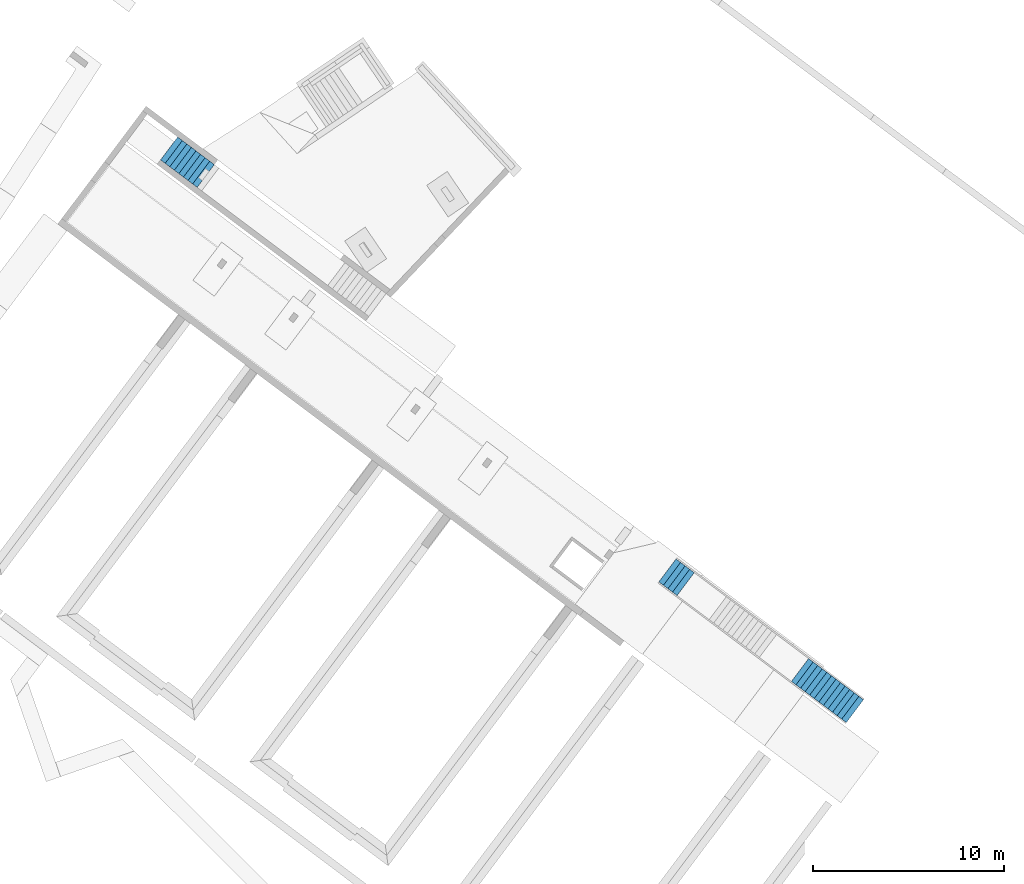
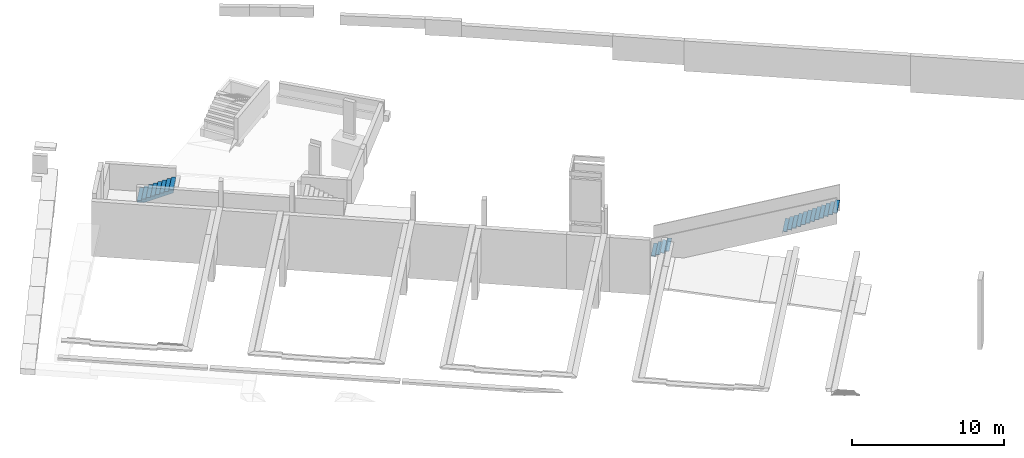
# One storey, part 6 of 11: 3 stair flights, 2 elements without a shape of their own.
"""IFC2X3 building model written with IfcOpenShell, lengths in metres."""

from ifc_helpers import new_model, entity, si_unit, converted_unit, derived_unit, direction, frame, origin, place, context, subcontext, project, spatial, faceted_brep, material, material_list, type_object, element, aggregate, save


model = new_model("IFC2X3")

# Units and contexts
model_context = context("Model", 3, precision=1e-05, world=origin(), true_north=direction((6.123031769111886e-17, 1.0)))
body_context = subcontext(model_context, "Body", "Model", "MODEL_VIEW")
ifc_project = project(units=[si_unit("LENGTHUNIT", "METRE"), si_unit("AREAUNIT", "SQUARE_METRE"), si_unit("VOLUMEUNIT", "CUBIC_METRE"), converted_unit("PLANEANGLEUNIT", "DEGREE", entity("IfcRatioMeasure", 0.017453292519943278), si_unit("PLANEANGLEUNIT", "RADIAN"), dimensions=[0, 0, 0, 0, 0, 0, 0]), si_unit("MASSUNIT", "GRAM", prefix="KILO"), derived_unit("MASSDENSITYUNIT", [(si_unit("MASSUNIT", "GRAM", prefix="KILO"), 1), (si_unit("LENGTHUNIT", "METRE"), -3)]), derived_unit("IONCONCENTRATIONUNIT", [(si_unit("MASSUNIT", "GRAM", prefix="KILO"), 1), (si_unit("LENGTHUNIT", "METRE"), -3)]), derived_unit("MOMENTOFINERTIAUNIT", [(si_unit("LENGTHUNIT", "METRE"), 4)]), si_unit("TIMEUNIT", "SECOND"), si_unit("FREQUENCYUNIT", "HERTZ"), si_unit("THERMODYNAMICTEMPERATUREUNIT", "DEGREE_CELSIUS"), derived_unit("THERMALTRANSMITTANCEUNIT", [(si_unit("MASSUNIT", "GRAM", prefix="KILO"), 1), (si_unit("THERMODYNAMICTEMPERATUREUNIT", "KELVIN"), -1), (si_unit("TIMEUNIT", "SECOND"), -3)]), derived_unit("THERMALCONDUCTANCEUNIT", [(si_unit("MASSUNIT", "GRAM", prefix="KILO"), 1), (si_unit("THERMODYNAMICTEMPERATUREUNIT", "KELVIN"), -1), (si_unit("TIMEUNIT", "SECOND"), -3), (si_unit("LENGTHUNIT", "METRE"), 1)]), derived_unit("VOLUMETRICFLOWRATEUNIT", [(si_unit("LENGTHUNIT", "METRE"), 3), (si_unit("TIMEUNIT", "SECOND"), -1)]), derived_unit("MASSFLOWRATEUNIT", [(si_unit("MASSUNIT", "GRAM", prefix="KILO"), 1), (si_unit("TIMEUNIT", "SECOND"), -1)]), derived_unit("ROTATIONALFREQUENCYUNIT", [(si_unit("TIMEUNIT", "SECOND"), -1)]), si_unit("ELECTRICCURRENTUNIT", "AMPERE"), si_unit("ELECTRICVOLTAGEUNIT", "VOLT"), si_unit("POWERUNIT", "WATT"), si_unit("FORCEUNIT", "NEWTON", prefix="KILO"), si_unit("ILLUMINANCEUNIT", "LUX"), si_unit("LUMINOUSFLUXUNIT", "LUMEN"), si_unit("LUMINOUSINTENSITYUNIT", "CANDELA"), derived_unit("USERDEFINED", [(si_unit("MASSUNIT", "GRAM", prefix="KILO"), -1), (si_unit("LENGTHUNIT", "METRE"), -2), (si_unit("TIMEUNIT", "SECOND"), 3), (si_unit("LUMINOUSFLUXUNIT", "LUMEN"), 1)]), derived_unit("USERDEFINED", [(si_unit("MASSUNIT", "GRAM", prefix="KILO"), 1), (si_unit("TIMEUNIT", "SECOND"), -3), (si_unit("LENGTHUNIT", "METRE"), 3), (si_unit("ELECTRICCURRENTUNIT", "AMPERE"), -2)]), derived_unit("SOUNDPOWERUNIT", [(si_unit("MASSUNIT", "GRAM", prefix="KILO"), 1), (si_unit("TIMEUNIT", "SECOND"), -3), (si_unit("LENGTHUNIT", "METRE"), 2)]), derived_unit("SOUNDPRESSUREUNIT", [(si_unit("MASSUNIT", "GRAM", prefix="KILO"), 1), (si_unit("LENGTHUNIT", "METRE"), -1), (si_unit("TIMEUNIT", "SECOND"), -2)]), derived_unit("LINEARVELOCITYUNIT", [(si_unit("LENGTHUNIT", "METRE"), 1), (si_unit("TIMEUNIT", "SECOND"), -1)]), si_unit("PRESSUREUNIT", "PASCAL"), derived_unit("USERDEFINED", [(si_unit("MASSUNIT", "GRAM", prefix="KILO"), 1), (si_unit("LENGTHUNIT", "METRE"), -2), (si_unit("TIMEUNIT", "SECOND"), -2)]), derived_unit("LINEARFORCEUNIT", [(si_unit("MASSUNIT", "GRAM", prefix="KILO"), 1), (si_unit("TIMEUNIT", "SECOND"), -2)]), derived_unit("PLANARFORCEUNIT", [(si_unit("MASSUNIT", "GRAM", prefix="KILO"), 1), (si_unit("LENGTHUNIT", "METRE"), -1), (si_unit("TIMEUNIT", "SECOND"), -2)]), derived_unit("SPECIFICHEATCAPACITYUNIT", [(si_unit("THERMODYNAMICTEMPERATUREUNIT", "KELVIN"), -1), (si_unit("LENGTHUNIT", "METRE"), 2), (si_unit("TIMEUNIT", "SECOND"), -2)]), derived_unit("HEATINGVALUEUNIT", [(si_unit("LENGTHUNIT", "METRE"), 2), (si_unit("TIMEUNIT", "SECOND"), -2)]), derived_unit("VAPORPERMEABILITYUNIT", [(si_unit("LENGTHUNIT", "METRE"), -1), (si_unit("TIMEUNIT", "SECOND"), 1)]), derived_unit("DYNAMICVISCOSITYUNIT", [(si_unit("MASSUNIT", "GRAM", prefix="KILO"), 1), (si_unit("TIMEUNIT", "SECOND"), -1), (si_unit("LENGTHUNIT", "METRE"), -1)]), derived_unit("THERMALEXPANSIONCOEFFICIENTUNIT", [(si_unit("THERMODYNAMICTEMPERATUREUNIT", "KELVIN"), -1)]), derived_unit("MODULUSOFELASTICITYUNIT", [(si_unit("MASSUNIT", "GRAM", prefix="KILO"), 1), (si_unit("LENGTHUNIT", "METRE"), -1), (si_unit("TIMEUNIT", "SECOND"), -2)]), derived_unit("ISOTHERMALMOISTURECAPACITYUNIT", [(si_unit("LENGTHUNIT", "METRE"), 3), (si_unit("MASSUNIT", "GRAM", prefix="KILO"), -1)]), derived_unit("MOISTUREDIFFUSIVITYUNIT", [(si_unit("TIMEUNIT", "SECOND"), -1), (si_unit("LENGTHUNIT", "METRE"), 2)])], contexts=[model_context])

# Site, building, storey
site_placement = place(None, origin())
site = spatial("IfcSite", under=ifc_project, at=site_placement, Name="Default", CompositionType="ELEMENT")
building_placement = place(site_placement, frame((0.0, 0.0, 235.0), z_axis=(0.0, 0.0, 1.0), x_axis=(-0.7996477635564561, 0.6004693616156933, 0.0)))
building = spatial("IfcBuilding", under=site, at=building_placement, CompositionType="ELEMENT")
storey_placement = place(building_placement, frame((0.0, 0.0, -4.459999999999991)))
storey = spatial("IfcBuildingStorey", under=building, at=storey_placement, Name="PS1- Vestuari", CompositionType="ELEMENT", Elevation=-4.459999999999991)

# Stair, stair flight
stair_1_placement = place(storey_placement, origin())
stair_1 = element("IfcStair", 1, at=stair_1_placement, inside=storey, Name="Escalera moldeada in situ:Escalera", ShapeType="STRAIGHT_RUN_STAIR")
ifc_material_1 = material(Name="_Formigó- T1- STR")
stair_flight_type_1 = type_object("IfcStairFlightType", Name="Tramo monolítico:E00- STR- Ext", PredefinedType="STRAIGHT")
stair_flight_1_placement = place(stair_1_placement, frame((70.04514768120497, -43.84019175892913, 0.0)))
stair_flight_1 = element("IfcStairFlight", 2, at=stair_flight_1_placement, type_object=stair_flight_type_1, material=ifc_material_1, Name="Escalera moldeada in situ:Escalera:42290 Run 1", ObjectType="Tramo monolítico:E00- STR- Ext", NumberOfRiser=9, NumberOfTreads=8, RiserHeight=0.4775444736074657, TreadLength=0.9842519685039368, context=body_context, shape_type="Brep", body=[
    faceted_brep([(2.099999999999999, 0.0, 0.09555555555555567), (2.4000000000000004, 0.0, 0.09555555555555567), (2.4000000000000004, 1.499999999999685, 0.09555555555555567), (2.099999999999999, 1.499999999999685, 0.09555555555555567), (2.4000000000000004, 1.499999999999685, -0.05), (2.099999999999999, 1.499999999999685, -0.05), (2.4000000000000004, 0.0, -0.05), (2.099999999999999, 0.0, -0.05), (1.799999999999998, 0.0, 0.24111111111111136), (2.099999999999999, 0.0, 0.24111111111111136), (2.099999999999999, 1.499999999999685, 0.24111111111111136), (1.799999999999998, 1.499999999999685, 0.24111111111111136), (1.9418295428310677, 1.499999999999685, -0.0499999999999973), (1.799999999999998, 1.499999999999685, 0.018813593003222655), (1.799999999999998, 0.0, 0.018813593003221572), (1.9418295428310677, 0.0, -0.05), (1.499999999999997, 0.0, 0.16436914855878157), (1.2000000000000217, 0.0, 0.30992470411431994), (0.9000000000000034, 0.0, 0.45548025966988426), (0.6000000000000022, 0.0, 0.6010358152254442), (0.3000000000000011, 0.0, 0.7465913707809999), (0.0, 0.0, 0.8921469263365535), (0.0, 1.4999999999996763, 0.8921469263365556), (0.3000000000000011, 1.4999999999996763, 0.7465913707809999), (0.6000000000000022, 1.4999999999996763, 0.6010358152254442), (0.9000000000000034, 1.4999999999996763, 0.45548025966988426), (1.2000000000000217, 1.499999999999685, 0.30992470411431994), (1.499999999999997, 1.499999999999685, 0.16436914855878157), (1.499999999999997, 0.0, 0.3866666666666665), (1.799999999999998, 0.0, 0.3866666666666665), (1.799999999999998, 1.499999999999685, 0.3866666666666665), (1.5000000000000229, 1.499999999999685, 0.3866666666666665), (1.2000000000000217, 0.0, 0.5322222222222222), (1.5000000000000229, 0.0, 0.5322222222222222), (1.5000000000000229, 1.499999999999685, 0.5322222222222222), (1.2000000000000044, 1.499999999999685, 0.5322222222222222), (0.9000000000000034, 0.0, 0.6777777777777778), (1.2000000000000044, 0.0, 0.6777777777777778), (1.2000000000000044, 1.4999999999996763, 0.6777777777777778), (0.9000000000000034, 1.4999999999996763, 0.6777777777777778), (0.6000000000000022, 0.0, 0.8233333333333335), (0.9000000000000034, 0.0, 0.8233333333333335), (0.9000000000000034, 1.4999999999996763, 0.8233333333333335), (0.6000000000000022, 1.4999999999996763, 0.8233333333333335), (0.3000000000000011, 0.0, 0.9688888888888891), (0.6000000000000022, 0.0, 0.9688888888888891), (0.6000000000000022, 1.4999999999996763, 0.9688888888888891), (0.3000000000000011, 1.4999999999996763, 0.9688888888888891), (0.0, 0.0, 1.1144444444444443), (0.3000000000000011, 0.0, 1.1144444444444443), (0.3000000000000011, 1.4999999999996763, 1.1144444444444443), (0.0, 1.4999999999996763, 1.1144444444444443)], [[[0, 1, 2, 3]], [[3, 2, 4, 5]], [[2, 1, 6, 4]], [[1, 0, 7, 6]], [[8, 9, 10, 11]], [[3, 5, 12, 13, 11, 10]], [[0, 3, 10, 9]], [[7, 0, 9, 8, 14, 15]], [[6, 7, 15, 12, 5, 4]], [[12, 15, 14, 16, 17, 18, 19, 20, 21, 22, 23, 24, 25, 26, 27, 13]], [[28, 29, 30, 31]], [[31, 30, 11, 13, 27]], [[8, 11, 30, 29]], [[29, 28, 16, 14, 8]], [[32, 33, 34, 35]], [[35, 34, 31, 27, 26]], [[28, 31, 34, 33]], [[33, 32, 17, 16, 28]], [[36, 37, 38, 39]], [[39, 38, 35, 26, 25]], [[32, 35, 38, 37]], [[37, 36, 18, 17, 32]], [[40, 41, 42, 43]], [[43, 42, 39, 25, 24]], [[36, 39, 42, 41]], [[41, 40, 19, 18, 36]], [[44, 45, 46, 47]], [[47, 46, 43, 24, 23]], [[40, 43, 46, 45]], [[45, 44, 20, 19, 40]], [[48, 49, 50, 51]], [[51, 50, 47, 23, 22]], [[44, 47, 50, 49]], [[49, 48, 21, 20, 44]], [[48, 51, 22, 21]]]),
])
aggregate(stair_1, [stair_flight_1])

# Stair, stair flights
stair_2_placement = place(storey_placement, origin())
stair_2 = element("IfcStair", 3, at=stair_2_placement, inside=storey, Name="Escalera moldeada in situ:Escalera", ObjectType="Escalera moldeada in situ:E-A1", ShapeType="NOTDEFINED")
ifc_material_2 = material(Name="_PAV escales STR")
ifc_material_3 = material(Name="_Acer- STR")
ifc_material_list = material_list([ifc_material_2, ifc_material_3])
stair_flight_type_2 = type_object("IfcStairFlightType", Name="Tramo monolítico:E00- STR- Acer", PredefinedType="STRAIGHT")
stair_flight_2_placement = place(stair_2_placement, frame((37.045147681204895, -41.8371917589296, 0.0)))
stair_flight_2 = element("IfcStairFlight", 4, at=stair_flight_2_placement, type_object=stair_flight_type_2, material=ifc_material_list, Name="Escalera moldeada in situ:Escalera:43273 Run 1", ObjectType="Tramo monolítico:E00- STR- Acer", NumberOfRiser=4, NumberOfTreads=4, RiserHeight=0.5249343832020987, TreadLength=0.9842519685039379, context=body_context, shape_type="Brep", body=[
    faceted_brep([(0.899999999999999, 0.0, -0.08000000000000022), (1.2000000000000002, 0.0, -0.08000000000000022), (1.2000000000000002, 1.5000000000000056, -0.08000000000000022), (0.899999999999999, 1.5000000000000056, -0.08000000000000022), (0.899999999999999, 0.0, -0.11000000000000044), (0.899999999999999, 1.5000000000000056, -0.11000000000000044), (1.2000000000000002, 1.5000000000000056, -0.11000000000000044), (1.2000000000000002, 0.0, -0.11000000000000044)], [[[0, 1, 2, 3]], [[4, 5, 6, 7]], [[1, 0, 4, 7]], [[2, 1, 7, 6]], [[3, 2, 6, 5]], [[0, 3, 5, 4]]]),
    faceted_brep([(0.6000000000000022, 0.0, 0.07999999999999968), (0.9000000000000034, 0.0, 0.07999999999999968), (0.9000000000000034, 1.5000000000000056, 0.07999999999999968), (0.6000000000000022, 1.5000000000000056, 0.07999999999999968), (0.6000000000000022, 0.0, 0.04999999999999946), (0.6000000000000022, 1.5000000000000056, 0.04999999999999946), (0.9000000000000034, 1.5000000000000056, 0.04999999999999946), (0.9000000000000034, 0.0, 0.04999999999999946)], [[[0, 1, 2, 3]], [[4, 5, 6, 7]], [[1, 0, 4, 7]], [[2, 1, 7, 6]], [[3, 2, 6, 5]], [[0, 3, 5, 4]]]),
    faceted_brep([(0.3000000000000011, 0.0, 0.23999999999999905), (0.6000000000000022, 0.0, 0.23999999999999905), (0.6000000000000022, 1.5000000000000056, 0.23999999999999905), (0.3000000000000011, 1.5000000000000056, 0.23999999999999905), (0.3000000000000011, 0.0, 0.20999999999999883), (0.3000000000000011, 1.5000000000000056, 0.20999999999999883), (0.6000000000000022, 1.5000000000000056, 0.20999999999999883), (0.6000000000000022, 0.0, 0.20999999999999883)], [[[0, 1, 2, 3]], [[4, 5, 6, 7]], [[1, 0, 4, 7]], [[2, 1, 7, 6]], [[3, 2, 6, 5]], [[0, 3, 5, 4]]]),
    faceted_brep([(0.0, 0.0, 0.39999999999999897), (0.3000000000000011, 0.0, 0.39999999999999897), (0.3000000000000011, 1.5000000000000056, 0.39999999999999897), (0.0, 1.5000000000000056, 0.39999999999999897), (0.0, 0.0, 0.3699999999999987), (0.0, 1.5000000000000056, 0.3699999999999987), (0.3000000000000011, 1.5000000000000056, 0.3699999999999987), (0.3000000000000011, 0.0, 0.3699999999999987)], [[[0, 1, 2, 3]], [[4, 5, 6, 7]], [[1, 0, 4, 7]], [[2, 1, 7, 6]], [[3, 2, 6, 5]], [[0, 3, 5, 4]]]),
    faceted_brep([(0.6000000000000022, 0.0, 0.04999999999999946), (0.9000000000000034, 0.0, 0.04999999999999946), (0.9000000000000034, 1.5000000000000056, 0.04999999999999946), (0.6000000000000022, 1.5000000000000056, 0.04999999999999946), (0.6000000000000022, 0.0, 0.03999999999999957), (0.8899999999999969, 0.0, 0.03999999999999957), (0.8899999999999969, 0.0, -0.08000000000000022), (0.9000000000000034, 0.0, -0.08000000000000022), (0.9000000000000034, 1.5000000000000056, -0.08000000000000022), (0.8899999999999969, 1.5000000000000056, -0.08000000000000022), (0.8899999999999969, 1.5000000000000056, 0.03999999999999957), (0.6000000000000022, 1.5000000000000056, 0.03999999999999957), (0.3000000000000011, 0.0, 0.20999999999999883), (0.6000000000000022, 0.0, 0.20999999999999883), (0.6000000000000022, 1.5000000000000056, 0.20999999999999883), (0.3000000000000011, 1.5000000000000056, 0.20999999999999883), (0.3000000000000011, 0.0, 0.19999999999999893), (0.5900000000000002, 0.0, 0.19999999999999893), (0.5900000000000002, 0.0, 0.03999999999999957), (0.5900000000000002, 1.5000000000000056, 0.03999999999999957), (0.5900000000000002, 1.5000000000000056, 0.19999999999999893), (0.3000000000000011, 1.5000000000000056, 0.19999999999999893), (0.28999999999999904, 0.0, 0.19999999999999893), (0.28999999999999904, 1.5000000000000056, 0.19999999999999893), (0.28999999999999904, 0.0, 0.3599999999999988), (0.28999999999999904, 1.5000000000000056, 0.3599999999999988), (0.0, 0.0, 0.3599999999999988), (0.0, 1.5000000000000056, 0.3599999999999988), (0.0, 0.0, 0.3699999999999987), (0.3000000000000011, 0.0, 0.3699999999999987), (0.3000000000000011, 1.5000000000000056, 0.3699999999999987), (0.0, 1.5000000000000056, 0.3699999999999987)], [[[0, 1, 2, 3]], [[1, 0, 4, 5, 6, 7]], [[2, 1, 7, 8]], [[3, 2, 8, 9, 10, 11]], [[12, 13, 14, 15]], [[13, 12, 16, 17, 18, 4, 0]], [[0, 3, 14, 13]], [[15, 14, 3, 11, 19, 20, 21]], [[8, 7, 6, 9]], [[5, 10, 9, 6]], [[18, 19, 11, 10, 5, 4]], [[19, 18, 17, 20]], [[22, 23, 21, 20, 17, 16]], [[23, 22, 24, 25]], [[25, 24, 26, 27]], [[28, 29, 30, 31]], [[29, 28, 26, 24, 22, 16, 12]], [[12, 15, 30, 29]], [[31, 30, 15, 21, 23, 25, 27]], [[28, 31, 27, 26]]]),
])
stair_flight_3_placement = place(stair_2_placement, frame((25.945147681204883, -41.83719175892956, 0.0)))
stair_flight_3 = element("IfcStairFlight", 5, at=stair_flight_3_placement, type_object=stair_flight_type_2, material=ifc_material_list, Name="Escalera moldeada in situ:Escalera:43273 Run 3", ObjectType="Tramo monolítico:E00- STR- Acer", NumberOfRiser=12, NumberOfTreads=12, RiserHeight=0.5249343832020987, TreadLength=0.9842519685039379, context=body_context, shape_type="Brep", body=[
    faceted_brep([(3.3000000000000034, 0.0, 2.6399999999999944), (3.6000000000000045, 0.0, 2.6399999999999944), (3.6000000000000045, 1.5000000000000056, 2.6399999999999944), (3.3000000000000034, 1.5000000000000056, 2.6399999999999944), (3.3000000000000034, 0.0, 2.6099999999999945), (3.3000000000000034, 1.5000000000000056, 2.6099999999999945), (3.6000000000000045, 1.5000000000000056, 2.6099999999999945), (3.6000000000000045, 0.0, 2.6099999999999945)], [[[0, 1, 2, 3]], [[4, 5, 6, 7]], [[1, 0, 4, 7]], [[2, 1, 7, 6]], [[3, 2, 6, 5]], [[0, 3, 5, 4]]]),
    faceted_brep([(3.0, 0.0, 2.799999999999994), (3.3000000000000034, 0.0, 2.799999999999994), (3.3000000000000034, 1.5000000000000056, 2.799999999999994), (3.0, 1.5000000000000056, 2.799999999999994), (3.0, 0.0, 2.7699999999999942), (3.0, 1.5000000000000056, 2.7699999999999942), (3.3000000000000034, 1.5000000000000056, 2.7699999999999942), (3.3000000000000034, 0.0, 2.7699999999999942)], [[[0, 1, 2, 3]], [[4, 5, 6, 7]], [[1, 0, 4, 7]], [[2, 1, 7, 6]], [[3, 2, 6, 5]], [[0, 3, 5, 4]]]),
    faceted_brep([(2.7000000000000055, 0.0, 2.959999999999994), (3.0, 0.0, 2.959999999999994), (3.0, 1.5000000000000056, 2.959999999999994), (2.7000000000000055, 1.5000000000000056, 2.959999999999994), (2.7000000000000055, 0.0, 2.9299999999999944), (2.7000000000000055, 1.5000000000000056, 2.9299999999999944), (3.0, 1.5000000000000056, 2.9299999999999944), (3.0, 0.0, 2.9299999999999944)], [[[0, 1, 2, 3]], [[4, 5, 6, 7]], [[1, 0, 4, 7]], [[2, 1, 7, 6]], [[3, 2, 6, 5]], [[0, 3, 5, 4]]]),
    faceted_brep([(2.4000000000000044, 0.0, 3.1199999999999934), (2.7000000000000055, 0.0, 3.1199999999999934), (2.7000000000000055, 1.5000000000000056, 3.1199999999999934), (2.4000000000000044, 1.5000000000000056, 3.1199999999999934), (2.4000000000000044, 0.0, 3.0899999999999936), (2.4000000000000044, 1.5000000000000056, 3.0899999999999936), (2.7000000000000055, 1.5000000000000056, 3.0899999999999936), (2.7000000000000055, 0.0, 3.0899999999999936)], [[[0, 1, 2, 3]], [[4, 5, 6, 7]], [[1, 0, 4, 7]], [[2, 1, 7, 6]], [[3, 2, 6, 5]], [[0, 3, 5, 4]]]),
    faceted_brep([(2.100000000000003, 0.0, 3.2799999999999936), (2.4000000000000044, 0.0, 3.2799999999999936), (2.4000000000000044, 1.5000000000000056, 3.2799999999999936), (2.100000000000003, 1.5000000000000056, 3.2799999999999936), (2.100000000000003, 0.0, 3.2499999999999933), (2.100000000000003, 1.5000000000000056, 3.2499999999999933), (2.4000000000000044, 1.5000000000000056, 3.2499999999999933), (2.4000000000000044, 0.0, 3.2499999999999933)], [[[0, 1, 2, 3]], [[4, 5, 6, 7]], [[1, 0, 4, 7]], [[2, 1, 7, 6]], [[3, 2, 6, 5]], [[0, 3, 5, 4]]]),
    faceted_brep([(1.7999999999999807, 0.0, 3.4399999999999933), (2.099999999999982, 0.0, 3.4399999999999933), (2.099999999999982, 1.5000000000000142, 3.4399999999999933), (1.7999999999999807, 1.5000000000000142, 3.4399999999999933), (1.7999999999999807, 0.0, 3.409999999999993), (1.7999999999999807, 1.5000000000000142, 3.409999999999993), (2.099999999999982, 1.5000000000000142, 3.409999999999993), (2.099999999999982, 0.0, 3.409999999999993)], [[[0, 1, 2, 3]], [[4, 5, 6, 7]], [[1, 0, 4, 7]], [[2, 1, 7, 6]], [[3, 2, 6, 5]], [[0, 3, 5, 4]]]),
    faceted_brep([(1.500000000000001, 0.0, 3.5999999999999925), (1.8000000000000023, 0.0, 3.5999999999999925), (1.8000000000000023, 1.5000000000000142, 3.5999999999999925), (1.500000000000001, 1.5000000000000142, 3.5999999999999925), (1.500000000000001, 0.0, 3.569999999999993), (1.500000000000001, 1.5000000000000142, 3.569999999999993), (1.8000000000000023, 1.5000000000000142, 3.569999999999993), (1.8000000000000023, 0.0, 3.569999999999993)], [[[0, 1, 2, 3]], [[4, 5, 6, 7]], [[1, 0, 4, 7]], [[2, 1, 7, 6]], [[3, 2, 6, 5]], [[0, 3, 5, 4]]]),
    faceted_brep([(1.2000000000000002, 0.0, 3.7599999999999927), (1.500000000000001, 0.0, 3.7599999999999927), (1.500000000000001, 1.5000000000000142, 3.7599999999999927), (1.2000000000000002, 1.5000000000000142, 3.7599999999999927), (1.2000000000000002, 0.0, 3.7299999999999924), (1.2000000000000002, 1.5000000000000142, 3.7299999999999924), (1.500000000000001, 1.5000000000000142, 3.7299999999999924), (1.500000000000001, 0.0, 3.7299999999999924)], [[[0, 1, 2, 3]], [[4, 5, 6, 7]], [[1, 0, 4, 7]], [[2, 1, 7, 6]], [[3, 2, 6, 5]], [[0, 3, 5, 4]]]),
    faceted_brep([(0.9000000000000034, 0.0, 3.9199999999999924), (1.2000000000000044, 0.0, 3.9199999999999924), (1.2000000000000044, 1.5000000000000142, 3.9199999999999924), (0.9000000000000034, 1.5000000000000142, 3.9199999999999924), (0.9000000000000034, 0.0, 3.889999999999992), (0.9000000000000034, 1.5000000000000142, 3.889999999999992), (1.2000000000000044, 1.5000000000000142, 3.889999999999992), (1.2000000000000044, 0.0, 3.889999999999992)], [[[0, 1, 2, 3]], [[4, 5, 6, 7]], [[1, 0, 4, 7]], [[2, 1, 7, 6]], [[3, 2, 6, 5]], [[0, 3, 5, 4]]]),
    faceted_brep([(0.6000000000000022, 0.0, 4.079999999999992), (0.9000000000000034, 0.0, 4.079999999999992), (0.9000000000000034, 1.5000000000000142, 4.079999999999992), (0.6000000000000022, 1.5000000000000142, 4.079999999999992), (0.6000000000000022, 0.0, 4.049999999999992), (0.6000000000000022, 1.5000000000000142, 4.049999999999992), (0.9000000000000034, 1.5000000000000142, 4.049999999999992), (0.9000000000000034, 0.0, 4.049999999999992)], [[[0, 1, 2, 3]], [[4, 5, 6, 7]], [[1, 0, 4, 7]], [[2, 1, 7, 6]], [[3, 2, 6, 5]], [[0, 3, 5, 4]]]),
    faceted_brep([(0.3000000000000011, 0.0, 4.239999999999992), (0.6000000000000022, 0.0, 4.239999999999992), (0.6000000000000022, 1.5000000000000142, 4.239999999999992), (0.3000000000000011, 1.5000000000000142, 4.239999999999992), (0.3000000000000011, 0.0, 4.209999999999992), (0.3000000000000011, 1.5000000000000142, 4.209999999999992), (0.6000000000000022, 1.5000000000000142, 4.209999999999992), (0.6000000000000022, 0.0, 4.209999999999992)], [[[0, 1, 2, 3]], [[4, 5, 6, 7]], [[1, 0, 4, 7]], [[2, 1, 7, 6]], [[3, 2, 6, 5]], [[0, 3, 5, 4]]]),
    faceted_brep([(0.0, 0.0, 4.3999999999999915), (0.3000000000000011, 0.0, 4.3999999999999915), (0.3000000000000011, 1.5000000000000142, 4.3999999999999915), (0.0, 1.5000000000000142, 4.3999999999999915), (0.0, 0.0, 4.369999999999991), (0.0, 1.5000000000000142, 4.369999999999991), (0.3000000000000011, 1.5000000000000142, 4.369999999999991), (0.3000000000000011, 0.0, 4.369999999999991)], [[[0, 1, 2, 3]], [[4, 5, 6, 7]], [[1, 0, 4, 7]], [[2, 1, 7, 6]], [[3, 2, 6, 5]], [[0, 3, 5, 4]]]),
    faceted_brep([(3.6000000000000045, 0.0, 2.6099999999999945), (3.6000000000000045, 1.5000000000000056, 2.6099999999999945), (3.5900000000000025, 1.5000000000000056, 2.6099999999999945), (3.3000000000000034, 1.5000000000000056, 2.6099999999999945), (3.3000000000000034, 0.0, 2.6099999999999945), (3.5900000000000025, 0.0, 2.6099999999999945), (3.3000000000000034, 0.0, 2.5999999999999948), (3.5900000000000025, 0.0, 2.5999999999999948), (3.5900000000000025, 0.0, 2.4399999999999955), (3.6000000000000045, 0.0, 2.4399999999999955), (3.6000000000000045, 0.0, 2.449999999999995), (3.6000000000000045, 1.5000000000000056, 2.4399999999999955), (3.6000000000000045, 1.5000000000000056, 2.449999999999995), (3.5900000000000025, 1.5000000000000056, 2.4399999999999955), (3.5900000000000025, 1.5000000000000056, 2.5999999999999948), (3.3000000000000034, 1.5000000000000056, 2.5999999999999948), (3.0, 0.0, 2.7699999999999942), (3.3000000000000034, 0.0, 2.7699999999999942), (3.3000000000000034, 1.5000000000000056, 2.7699999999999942), (3.0, 1.5000000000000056, 2.7699999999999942), (3.0, 0.0, 2.759999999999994), (3.2900000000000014, 0.0, 2.759999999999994), (3.2900000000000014, 0.0, 2.5999999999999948), (3.2900000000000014, 1.5000000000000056, 2.5999999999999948), (3.2900000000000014, 1.5000000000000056, 2.759999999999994), (3.0, 1.5000000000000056, 2.759999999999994), (2.7000000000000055, 0.0, 2.9299999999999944), (3.0, 0.0, 2.9299999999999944), (3.0, 1.5000000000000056, 2.9299999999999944), (2.7000000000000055, 1.5000000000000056, 2.9299999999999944), (2.7000000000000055, 0.0, 2.9199999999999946), (2.99, 0.0, 2.9199999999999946), (2.99, 0.0, 2.759999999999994), (2.99, 1.5000000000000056, 2.759999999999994), (2.99, 1.5000000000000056, 2.9199999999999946), (2.7000000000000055, 1.5000000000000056, 2.9199999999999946), (2.4000000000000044, 0.0, 3.0899999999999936), (2.7000000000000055, 0.0, 3.0899999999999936), (2.7000000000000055, 1.5000000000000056, 3.0899999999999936), (2.4000000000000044, 1.5000000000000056, 3.0899999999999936), (2.4000000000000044, 0.0, 3.079999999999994), (2.6900000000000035, 0.0, 3.079999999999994), (2.6900000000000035, 0.0, 2.9199999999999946), (2.6900000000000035, 1.5000000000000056, 2.9199999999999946), (2.6900000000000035, 1.5000000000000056, 3.079999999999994), (2.4000000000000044, 1.5000000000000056, 3.079999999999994), (2.100000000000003, 0.0, 3.2499999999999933), (2.4000000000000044, 0.0, 3.2499999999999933), (2.4000000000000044, 1.5000000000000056, 3.2499999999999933), (2.099999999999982, 1.5000000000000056, 3.2499999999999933), (2.100000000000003, 0.0, 3.239999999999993), (2.3900000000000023, 0.0, 3.239999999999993), (2.3900000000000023, 0.0, 3.079999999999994), (2.3900000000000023, 1.5000000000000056, 3.079999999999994), (2.3900000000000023, 1.5000000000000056, 3.239999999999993), (2.100000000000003, 1.5000000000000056, 3.239999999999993), (1.7999999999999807, 0.0, 3.409999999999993), (2.099999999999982, 0.0, 3.409999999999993), (2.099999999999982, 1.5000000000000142, 3.409999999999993), (1.8000000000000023, 1.5000000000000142, 3.409999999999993), (1.7999999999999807, 0.0, 3.3999999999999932), (2.090000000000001, 0.0, 3.3999999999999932), (2.090000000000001, 0.0, 3.239999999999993), (2.090000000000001, 1.5000000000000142, 3.239999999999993), (2.090000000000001, 1.5000000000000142, 3.3999999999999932), (1.7999999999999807, 1.5000000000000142, 3.3999999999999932), (1.500000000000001, 0.0, 3.569999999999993), (1.8000000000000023, 0.0, 3.569999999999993), (1.8000000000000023, 1.5000000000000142, 3.569999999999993), (1.500000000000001, 1.5000000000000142, 3.569999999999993), (1.500000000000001, 0.0, 3.559999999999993), (1.7899999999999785, 0.0, 3.559999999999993), (1.7899999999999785, 0.0, 3.3999999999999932), (1.7900000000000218, 1.5000000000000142, 3.3999999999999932), (1.7900000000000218, 1.5000000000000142, 3.559999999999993), (1.500000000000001, 1.5000000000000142, 3.559999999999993), (1.2000000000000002, 0.0, 3.7299999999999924), (1.500000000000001, 0.0, 3.7299999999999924), (1.500000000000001, 1.5000000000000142, 3.7299999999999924), (1.2000000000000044, 1.5000000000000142, 3.7299999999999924), (1.2000000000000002, 0.0, 3.7199999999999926), (1.489999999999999, 0.0, 3.7199999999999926), (1.489999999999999, 0.0, 3.559999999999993), (1.489999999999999, 1.5000000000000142, 3.559999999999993), (1.489999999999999, 1.5000000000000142, 3.7199999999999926), (1.2000000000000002, 1.5000000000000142, 3.7199999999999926), (0.9000000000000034, 0.0, 3.889999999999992), (1.2000000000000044, 0.0, 3.889999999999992), (1.2000000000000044, 1.5000000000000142, 3.889999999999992), (0.9000000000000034, 1.5000000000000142, 3.889999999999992), (0.9000000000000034, 0.0, 3.879999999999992), (1.189999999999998, 0.0, 3.879999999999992), (1.189999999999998, 0.0, 3.7199999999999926), (1.189999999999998, 1.5000000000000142, 3.7199999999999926), (1.189999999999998, 1.5000000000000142, 3.879999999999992), (0.9000000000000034, 1.5000000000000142, 3.879999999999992), (0.6000000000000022, 0.0, 4.049999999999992), (0.9000000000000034, 0.0, 4.049999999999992), (0.9000000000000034, 1.5000000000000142, 4.049999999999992), (0.6000000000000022, 1.5000000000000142, 4.049999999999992), (0.6000000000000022, 0.0, 4.039999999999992), (0.8900000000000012, 0.0, 4.039999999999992), (0.8900000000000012, 0.0, 3.879999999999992), (0.8900000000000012, 1.5000000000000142, 3.879999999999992), (0.8900000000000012, 1.5000000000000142, 4.039999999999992), (0.6000000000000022, 1.5000000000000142, 4.039999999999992), (0.3000000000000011, 0.0, 4.209999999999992), (0.6000000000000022, 0.0, 4.209999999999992), (0.6000000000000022, 1.5000000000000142, 4.209999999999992), (0.3000000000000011, 1.5000000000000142, 4.209999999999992), (0.3000000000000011, 0.0, 4.199999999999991), (0.5900000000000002, 0.0, 4.199999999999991), (0.5900000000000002, 0.0, 4.039999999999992), (0.5900000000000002, 1.5000000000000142, 4.039999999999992), (0.5900000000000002, 1.5000000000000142, 4.199999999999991), (0.3000000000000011, 1.5000000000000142, 4.199999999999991), (0.0, 0.0, 4.369999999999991), (0.3000000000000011, 0.0, 4.369999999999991), (0.3000000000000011, 1.5000000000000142, 4.369999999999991), (0.0, 1.5000000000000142, 4.369999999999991), (0.0, 0.0, 4.359999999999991), (0.28999999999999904, 0.0, 4.359999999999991), (0.28999999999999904, 0.0, 4.199999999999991), (0.28999999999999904, 1.5000000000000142, 4.199999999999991), (0.28999999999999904, 1.5000000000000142, 4.359999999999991), (0.0, 1.5000000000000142, 4.359999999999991)], [[[0, 1, 2, 3, 4, 5]], [[4, 6, 7, 8, 9, 10, 0, 5]], [[1, 0, 10, 9, 11, 12]], [[1, 12, 11, 13, 14, 15, 3, 2]], [[16, 17, 18, 19]], [[17, 16, 20, 21, 22, 6, 4]], [[18, 17, 4, 3]], [[19, 18, 3, 15, 23, 24, 25]], [[26, 27, 28, 29]], [[27, 26, 30, 31, 32, 20, 16]], [[28, 27, 16, 19]], [[29, 28, 19, 25, 33, 34, 35]], [[36, 37, 38, 39]], [[37, 36, 40, 41, 42, 30, 26]], [[38, 37, 26, 29]], [[39, 38, 29, 35, 43, 44, 45]], [[46, 47, 48, 49]], [[47, 46, 50, 51, 52, 40, 36]], [[48, 47, 36, 39]], [[49, 48, 39, 45, 53, 54, 55]], [[8, 13, 11, 9]], [[22, 23, 15, 14, 7, 6]], [[32, 33, 25, 24, 21, 20]], [[42, 43, 35, 34, 31, 30]], [[52, 53, 45, 44, 41, 40]], [[56, 57, 58, 59]], [[57, 56, 60, 61, 62, 50, 46]], [[58, 57, 46, 49]], [[59, 58, 49, 55, 63, 64, 65]], [[66, 67, 68, 69]], [[67, 66, 70, 71, 72, 60, 56]], [[68, 67, 56, 59]], [[69, 68, 59, 65, 73, 74, 75]], [[76, 77, 78, 79]], [[77, 76, 80, 81, 82, 70, 66]], [[78, 77, 66, 69]], [[79, 78, 69, 75, 83, 84, 85]], [[86, 87, 88, 89]], [[87, 86, 90, 91, 92, 80, 76]], [[88, 87, 76, 79]], [[89, 88, 79, 85, 93, 94, 95]], [[96, 97, 98, 99]], [[97, 96, 100, 101, 102, 90, 86]], [[98, 97, 86, 89]], [[99, 98, 89, 95, 103, 104, 105]], [[106, 107, 108, 109]], [[107, 106, 110, 111, 112, 100, 96]], [[108, 107, 96, 99]], [[109, 108, 99, 105, 113, 114, 115]], [[116, 117, 118, 119]], [[117, 116, 120, 121, 122, 110, 106]], [[118, 117, 106, 109]], [[119, 118, 109, 115, 123, 124, 125]], [[116, 119, 125, 120]], [[62, 63, 55, 54, 51, 50]], [[72, 73, 65, 64, 61, 60]], [[82, 83, 75, 74, 71, 70]], [[92, 93, 85, 84, 81, 80]], [[102, 103, 95, 94, 91, 90]], [[112, 113, 105, 104, 101, 100]], [[122, 123, 115, 114, 111, 110]], [[23, 22, 21, 24]], [[33, 32, 31, 34]], [[43, 42, 41, 44]], [[53, 52, 51, 54]], [[63, 62, 61, 64]], [[73, 72, 71, 74]], [[83, 82, 81, 84]], [[93, 92, 91, 94]], [[103, 102, 101, 104]], [[113, 112, 111, 114]], [[123, 122, 121, 124]], [[13, 8, 7, 14]], [[124, 121, 120, 125]]]),
])
aggregate(stair_2, [stair_flight_2, stair_flight_3])

save(model, "model.ifc")
